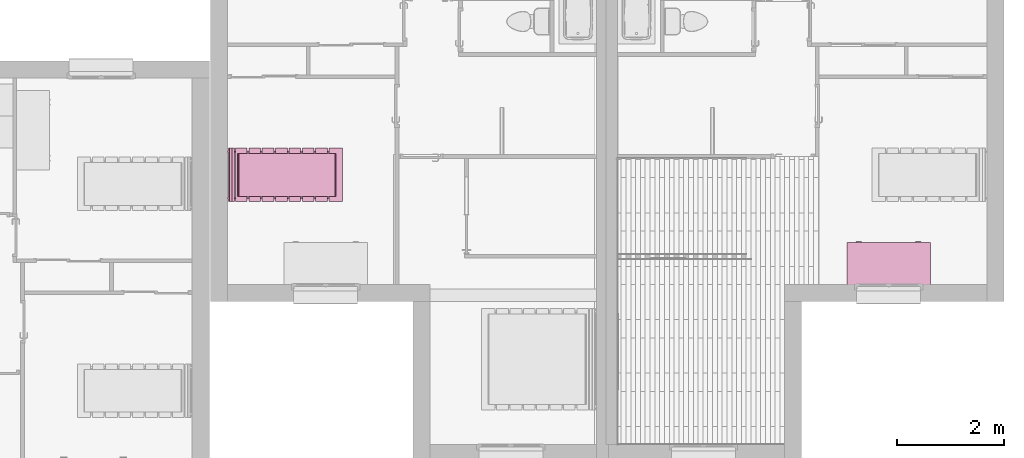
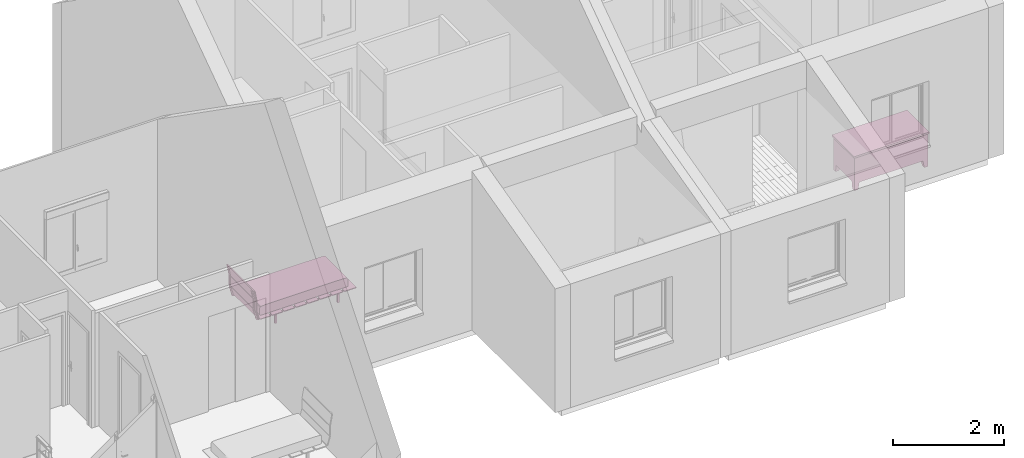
# One storey, part 48 of 50: 2 furnishings.
"""IFC2X3 building model written with IfcOpenShell, lengths in metres."""

import ifcopenshell
import ifcopenshell.guid

model = None  # the IFC model being written
_history = None  # IfcOwnerHistory: only IFC2X3 demands one
_inside = {}  # id of a spatial element -> (the spatial element, [elements in it])
_under = {}  # id of a project, library or spatial element -> (it, [spatial elements below it])
_declared = {}  # id of a project -> (the project, [libraries it declares])
_typed = {}  # id of a type object -> (the type object, [elements of that type])
_made_of = {}  # id of a material, layer set ... -> (it, [elements and type objects made of it])


def new_model(schema):
    """Start an empty IFC model of exactly this schema.

    Asked for "IFC4X3", IfcOpenShell would pick the latest addendum, in which some entities
    have other attributes; the version numbers below select the first issue.
    IFC2X3 requires an IfcOwnerHistory on every rooted entity: one is made here for all.
    """
    global model, _history
    if schema == "IFC4X3":
        model = ifcopenshell.file(schema_version=(4, 3, 0, 0))
    else:
        model = ifcopenshell.file(schema=schema)
    _inside.clear()
    _under.clear()
    _declared.clear()
    _typed.clear()
    _made_of.clear()
    _history = None
    if model.schema == "IFC2X3":
        org = make("IfcOrganization", Name="unknown")
        user = make(
            "IfcPersonAndOrganization",
            ThePerson=make("IfcPerson", FamilyName="unknown"),
            TheOrganization=org,
        )
        app = make(
            "IfcApplication",
            ApplicationDeveloper=org,
            Version="unknown",
            ApplicationFullName="unknown",
            ApplicationIdentifier="unknown",
        )
        _history = make(
            "IfcOwnerHistory",
            OwningUser=user,
            OwningApplication=app,
            ChangeAction="ADDED",
            CreationDate=0,
        )
    return model


def make(cls, **values):
    """One entity of the class cls with the attributes given. An attribute that is None is left unset."""
    return model.create_entity(
        cls, **{name: value for name, value in values.items() if value is not None}
    )


def entity(cls, *values):
    """Any entity or typed value of the class cls, its attributes in the order of the schema. None: left unset."""
    e = model.create_entity(cls)
    for i, value in enumerate(values):
        if value is not None:
            e[i] = value
    return e


def rooted(cls, **values):
    """An entity with a GlobalId (a new one), such as an element, a storey or a relation."""
    return make(cls, GlobalId=ifcopenshell.guid.new(), OwnerHistory=_history, **values)


def si_unit(unit_type, name, prefix=None):
    """IfcSIUnit, for example si_unit("LENGTHUNIT", "METRE", prefix="MILLI")."""
    return make("IfcSIUnit", UnitType=unit_type, Prefix=prefix, Name=name)


def converted_unit(unit_type, name, factor, base, dimensions=None, offset=None):
    """IfcConversionBasedUnit, such as the inch: factor (a typed value) times the base unit."""
    return make(
        "IfcConversionBasedUnit"
        if offset is None
        else "IfcConversionBasedUnitWithOffset",
        ConversionOffset=offset,
        Dimensions=None
        if dimensions is None
        else entity("IfcDimensionalExponents", *dimensions),
        UnitType=unit_type,
        Name=name,
        ConversionFactor=make(
            "IfcMeasureWithUnit", ValueComponent=factor, UnitComponent=base
        ),
    )


def derived_unit(unit_type, elements):
    """IfcDerivedUnit: a product of units, each with its exponent."""
    return make(
        "IfcDerivedUnit",
        Elements=[
            make("IfcDerivedUnitElement", Unit=unit, Exponent=power)
            for unit, power in elements
        ],
        UnitType=unit_type,
    )


def assignment(units):
    """IfcUnitAssignment: the units of a project."""
    return None if units is None else make("IfcUnitAssignment", Units=units)


def point(xyz):
    """IfcCartesianPoint."""
    return None if xyz is None else make("IfcCartesianPoint", Coordinates=xyz)


def direction(xyz):
    """IfcDirection."""
    return None if xyz is None else make("IfcDirection", DirectionRatios=xyz)


def frame(location, z_axis=None, x_axis=None):
    """IfcAxis2Placement3D, a coordinate frame: its origin and axes. An axis left out is left unset."""
    return make(
        "IfcAxis2Placement3D",
        Location=point(location),
        Axis=direction(z_axis),
        RefDirection=direction(x_axis),
    )


def frame_2d(location, x_axis=None):
    """IfcAxis2Placement2D, a coordinate frame in the plane: its origin and x axis."""
    return make(
        "IfcAxis2Placement2D", Location=point(location), RefDirection=direction(x_axis)
    )


def origin():
    """The frame at (0, 0, 0) with its axes left unset."""
    return frame((0.0, 0.0, 0.0))


def origin_2d_with_axis():
    """The frame at (0, 0) in the plane with the x axis (1, 0) written out."""
    return frame_2d((0.0, 0.0), x_axis=(1.0, 0.0))


def place(relative_to, where):
    """IfcLocalPlacement: puts the frame where relative to a parent placement (None: the world)."""
    return make(
        "IfcLocalPlacement", PlacementRelTo=relative_to, RelativePlacement=where
    )


def context(
    kind, dimensions, precision=None, world=None, true_north=None, identifier=None
):
    """IfcGeometricRepresentationContext, for example the 3D "Model" context."""
    return make(
        "IfcGeometricRepresentationContext",
        ContextIdentifier=identifier,
        ContextType=kind,
        CoordinateSpaceDimension=dimensions,
        Precision=precision,
        WorldCoordinateSystem=world,
        TrueNorth=true_north,
    )


def subcontext(parent, identifier, kind, view, scale=None):
    """IfcGeometricRepresentationSubContext, for example "Body" below "Model"."""
    return make(
        "IfcGeometricRepresentationSubContext",
        ContextIdentifier=identifier,
        ContextType=kind,
        ParentContext=parent,
        TargetScale=scale,
        TargetView=view,
    )


def project(units=None, contexts=None):
    """IfcProject with its units and contexts."""
    return rooted(
        "IfcProject",
        Name="project",
        RepresentationContexts=contexts,
        UnitsInContext=assignment(units),
    )


def spatial(cls, under=None, at=None, **own):
    """A site, building, storey or space (cls), placed at a placement, below another one or the project."""
    s = rooted(cls, ObjectPlacement=at, **own)
    if under is not None:
        _under.setdefault(under.id(), (under, []))[1].append(s)
    return s


def polyline(points):
    """IfcPolyline through the points."""
    return make("IfcPolyline", Points=[point(p) for p in points])


def circle_curve(where, radius):
    """IfcCircle in the frame where."""
    return make("IfcCircle", Position=where, Radius=radius)


def parameter(value):
    """IfcParameterValue: where a trimmed curve begins or ends, as a parameter of its basis curve."""
    return model.create_entity("IfcParameterValue", value)


def trimmed(basis, trim1, trim2, sense, master):
    """IfcTrimmedCurve: the piece of a basis curve between two trims."""
    return make(
        "IfcTrimmedCurve",
        BasisCurve=basis,
        Trim1=trim1,
        Trim2=trim2,
        SenseAgreement=sense,
        MasterRepresentation=master,
    )


def segment(curve, same_sense, transition):
    """IfcCompositeCurveSegment."""
    return make(
        "IfcCompositeCurveSegment",
        Transition=transition,
        SameSense=same_sense,
        ParentCurve=curve,
    )


def composite_curve(segments, self_intersect=None):
    """IfcCompositeCurve: segments joined end to end."""
    return make("IfcCompositeCurve", Segments=segments, SelfIntersect=self_intersect)


def profile(cls, at=None, kind="AREA", **sizes):
    """A parametric profile (cls). Its sizes go by their IFC names, for example OverallWidth=200.0."""
    return make(cls, ProfileType=kind, Position=at, **sizes)


def rectangle(**sizes):
    """IfcRectangleProfileDef."""
    return profile("IfcRectangleProfileDef", **sizes)


def outline(outer, holes=None, kind="AREA"):
    """IfcArbitraryClosedProfileDef: a profile drawn as a closed curve; with holes, ...WithVoids."""
    if holes is None:
        return make("IfcArbitraryClosedProfileDef", ProfileType=kind, OuterCurve=outer)
    return make(
        "IfcArbitraryProfileDefWithVoids",
        ProfileType=kind,
        OuterCurve=outer,
        InnerCurves=holes,
    )


def extrude(swept, where, along, depth):
    """IfcExtrudedAreaSolid: the profile swept, set in the frame where, extruded along a direction by depth."""
    return make(
        "IfcExtrudedAreaSolid",
        SweptArea=swept,
        Position=where,
        ExtrudedDirection=direction(along),
        Depth=depth,
    )


def faces_of(points, faces, orient=None, outer=None):
    """IfcFace entities. A face is a list of loops; a loop is a list of indices into points, from 0.

    orient and outer hold one flag for each loop. By default every Orientation is true, the
    first loop of a face is its IfcFaceOuterBound and the others are IfcFaceBound.
    """
    made = []
    for i, loops in enumerate(faces):
        bounds = []
        for j, loop in enumerate(loops):
            is_outer = j == 0 if outer is None else outer[i][j]
            bounds.append(
                make(
                    "IfcFaceOuterBound" if is_outer else "IfcFaceBound",
                    Bound=make("IfcPolyLoop", Polygon=[points[k] for k in loop]),
                    Orientation=True if orient is None else orient[i][j],
                )
            )
        made.append(make("IfcFace", Bounds=bounds))
    return made


def faceted_brep(points, faces, orient=None, outer=None, voids=None):
    """IfcFacetedBrep: a solid bounded by flat faces; with voids (closed shells), ...WithVoids."""
    shared = [point(p) for p in points]
    hull = make("IfcClosedShell", CfsFaces=faces_of(shared, faces, orient, outer))
    if voids is None:
        return make("IfcFacetedBrep", Outer=hull)
    return make(
        "IfcFacetedBrepWithVoids",
        Outer=hull,
        Voids=[
            make(cls, CfsFaces=faces_of(shared, fs, o, b)) for cls, fs, o, b in voids
        ],
    )


def shape(context_of_items, identifier, shape_type, items):
    """IfcShapeRepresentation: the items that make up one representation, for example the "Body"."""
    return make(
        "IfcShapeRepresentation",
        ContextOfItems=context_of_items,
        RepresentationIdentifier=identifier,
        RepresentationType=shape_type,
        Items=items,
    )


def source(mapping_origin, context_of_items, identifier, shape_type, items):
    """IfcRepresentationMap: a shape defined once, which mapped items show again and again."""
    return make(
        "IfcRepresentationMap",
        MappingOrigin=mapping_origin,
        MappedRepresentation=shape(context_of_items, identifier, shape_type, items),
    )


def transform(
    local_origin,
    x_axis=None,
    y_axis=None,
    z_axis=None,
    scale=None,
    scale2=None,
    scale3=None,
    uniform=True,
):
    """IfcCartesianTransformationOperator3D, or its non-uniform kind. x_axis, y_axis, z_axis: its Axis1, 2, 3."""
    if uniform:
        return make(
            "IfcCartesianTransformationOperator3D",
            Axis1=direction(x_axis),
            Axis2=direction(y_axis),
            LocalOrigin=point(local_origin),
            Scale=scale,
            Axis3=direction(z_axis),
        )
    return make(
        "IfcCartesianTransformationOperator3DnonUniform",
        Axis1=direction(x_axis),
        Axis2=direction(y_axis),
        LocalOrigin=point(local_origin),
        Scale=scale,
        Axis3=direction(z_axis),
        Scale2=scale2,
        Scale3=scale3,
    )


def mapped(mapping_source, mapping_target):
    """IfcMappedItem: shows the shape of a source again, moved by a transform."""
    return make(
        "IfcMappedItem", MappingSource=mapping_source, MappingTarget=mapping_target
    )


def material(Name=None, Category=None):
    """IfcMaterial."""
    return make("IfcMaterial", Name=Name, Category=Category)


def material_list(materials):
    """IfcMaterialList."""
    return make("IfcMaterialList", Materials=materials)


def made_of(thing, what):
    """Note that an element or type object is made of a material, layer set ...; save() writes the relation."""
    if what is not None:
        _made_of.setdefault(what.id(), (what, []))[1].append(thing)
    return thing


def type_object(cls, material=None, **own):
    """A type object (cls), such as IfcWallType, which elements share."""
    return made_of(rooted(cls, **own), material)


def type_shapes(of_type, sources):
    """Give a type object the sources (RepresentationMaps) that its elements show as mapped items."""
    of_type.RepresentationMaps = sources


def element(
    cls,
    number,
    at=None,
    inside=None,
    cuts=None,
    type_object=None,
    material=None,
    context=None,
    identifier="Body",
    shape_type=None,
    held_by="IfcProductDefinitionShape",
    body=None,
    shapes=None,
    **own,
):
    """One element of the class cls, such as IfcWall. Its Tag is "e" and its number.

    at: its placement. inside: the storey or other place that contains it. cuts: it is an
    opening in that element (IfcRelVoidsElement). A single representation is given by context,
    identifier, shape_type and body (its items); several are given by shapes. held_by: the class
    of the entity that holds the representations. save() writes the other relations.
    """
    e = rooted(cls, Tag="e%d" % number, ObjectPlacement=at, **own)
    if body is not None:
        shapes = [shape(context, identifier, shape_type, body)]
    if shapes is not None:
        e.Representation = make(held_by, Representations=shapes)
    if inside is not None:
        _inside.setdefault(inside.id(), (inside, []))[1].append(e)
    if cuts is not None:
        rooted(
            "IfcRelVoidsElement", RelatingBuildingElement=cuts, RelatedOpeningElement=e
        )
    if type_object is not None:
        _typed.setdefault(type_object.id(), (type_object, []))[1].append(e)
    return made_of(e, material)


def aggregate(whole, parts):
    """IfcRelAggregates: a whole, such as a stair, and the parts it consists of."""
    return rooted("IfcRelAggregates", RelatingObject=whole, RelatedObjects=parts)


def save(model, path):
    """Write the relations noted so far, then the file.

    IfcRelAggregates (storeys below a building ...), IfcRelContainedInSpatialStructure (elements
    in a storey), IfcRelDefinesByType, IfcRelAssociatesMaterial and IfcRelDeclares: one each for
    every whole, place, type object, material and project.
    """
    for whole, parts in _under.values():
        aggregate(whole, parts)
    for where, things in _inside.values():
        rooted(
            "IfcRelContainedInSpatialStructure",
            RelatedElements=things,
            RelatingStructure=where,
        )
    for kind, things in _typed.values():
        rooted("IfcRelDefinesByType", RelatedObjects=things, RelatingType=kind)
    for what, things in _made_of.values():
        rooted("IfcRelAssociatesMaterial", RelatedObjects=things, RelatingMaterial=what)
    for by, libraries in _declared.values():
        rooted("IfcRelDeclares", RelatingContext=by, RelatedDefinitions=libraries)
    model.write(path)


model = new_model("IFC2X3")

# Units and contexts
model_context = context("Model", 3, precision=1e-05, world=origin(), true_north=direction((6.12303176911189e-17, 1.0)))
context_of_model = context(None, 3, precision=1e-05, world=origin(), true_north=direction((6.12303176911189e-17, 1.0)))
body_context = subcontext(model_context, "Body", "Model", "MODEL_VIEW")
ifc_project = project(units=[si_unit("LENGTHUNIT", "METRE"), si_unit("AREAUNIT", "SQUARE_METRE"), si_unit("VOLUMEUNIT", "CUBIC_METRE"), converted_unit("PLANEANGLEUNIT", "DEGREE", entity("IfcRatioMeasure", 0.0174532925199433), si_unit("PLANEANGLEUNIT", "RADIAN"), dimensions=[0, 0, 0, 0, 0, 0, 0]), si_unit("MASSUNIT", "GRAM", prefix="KILO"), si_unit("TIMEUNIT", "SECOND"), si_unit("FREQUENCYUNIT", "HERTZ"), si_unit("THERMODYNAMICTEMPERATUREUNIT", "DEGREE_CELSIUS"), derived_unit("THERMALTRANSMITTANCEUNIT", [(si_unit("MASSUNIT", "GRAM", prefix="KILO"), 1), (si_unit("THERMODYNAMICTEMPERATUREUNIT", "KELVIN"), -1), (si_unit("TIMEUNIT", "SECOND"), -3)]), derived_unit("VOLUMETRICFLOWRATEUNIT", [(si_unit("LENGTHUNIT", "METRE"), 3), (si_unit("TIMEUNIT", "SECOND"), -1)]), si_unit("ELECTRICCURRENTUNIT", "AMPERE"), si_unit("ELECTRICVOLTAGEUNIT", "VOLT"), si_unit("POWERUNIT", "WATT"), si_unit("FORCEUNIT", "NEWTON", prefix="KILO"), si_unit("ILLUMINANCEUNIT", "LUX"), si_unit("LUMINOUSFLUXUNIT", "LUMEN"), si_unit("LUMINOUSINTENSITYUNIT", "CANDELA"), si_unit("PRESSUREUNIT", "PASCAL")], contexts=[model_context, context_of_model])

# Site, building, storey, space
site_placement = place(None, origin())
site = spatial("IfcSite", under=ifc_project, at=site_placement, Name="Surface", CompositionType="ELEMENT")
building_placement = place(site_placement, origin())
building = spatial("IfcBuilding", under=site, at=building_placement, CompositionType="ELEMENT")
storey_placement = place(building_placement, frame((0.0, 0.0, 2.82)))
storey = spatial("IfcBuildingStorey", under=building, at=storey_placement, Name="ETAGE", CompositionType="ELEMENT", Elevation=2.82)
space_placement = place(storey_placement, origin())
space = spatial("IfcSpace", under=storey, at=space_placement, Name="473", CompositionType="ELEMENT", InteriorOrExteriorSpace="INTERNAL")

# Furnishings
ifc_material_1 = material(Name="Bois - Mélaminé ivoire")
ifc_material_2 = material(Name="Métal - Chrome")
ifc_material_3 = material(Name="Bois - Cerisier")
ifc_material_list_1 = material_list([ifc_material_1, ifc_material_2, ifc_material_3])
ifc_material_list_2 = material_list([ifc_material_1, ifc_material_2, ifc_material_3])
furniture_type_1 = type_object("IfcFurnitureType", Name="1525 mm x 762 mm", AssemblyPlace="NOTDEFINED", material=ifc_material_list_2)
shared_shape_1 = source(origin(), body_context, "Body", "Brep", [
    faceted_brep([(1.13765, 0.761999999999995, 0.70485), (1.13765, 0.761999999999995, 0.60325), (1.50595, 0.761999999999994, 0.60325), (1.50595, 0.761999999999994, 0.70485), (1.13765, 0.774699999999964, 0.70485), (1.13765, 0.774699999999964, 0.60325), (1.50595, 0.774699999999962, 0.60325), (1.50595, 0.774699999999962, 0.70485)], [[[0, 1, 2, 3]], [[1, 0, 4, 5]], [[2, 1, 5, 6]], [[3, 2, 6, 7]], [[0, 3, 7, 4]], [[4, 7, 6, 5]]]),
    faceted_brep([(1.50595, 0.774699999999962, 0.5842), (1.50595, 0.774699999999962, 0.17105), (1.13765, 0.774699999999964, 0.17105), (1.13765, 0.774699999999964, 0.5842), (1.13765, 0.761999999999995, 0.5842), (1.50595, 0.761999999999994, 0.5842), (1.13765, 0.761999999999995, 0.17105), (1.50595, 0.761999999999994, 0.17105)], [[[0, 1, 2, 3]], [[4, 5, 0, 3]], [[6, 4, 3, 2]], [[7, 6, 2, 1]], [[5, 7, 1, 0]], [[5, 4, 6, 7]]]),
    faceted_brep([(0.38735, 0.761999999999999, 0.70485), (0.01905, 0.761999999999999, 0.70485), (0.01905, 0.761999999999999, 0.60285), (0.38735, 0.761999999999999, 0.60285), (0.38735, 0.774700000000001, 0.70485), (0.01905, 0.774700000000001, 0.70485), (0.01905, 0.774700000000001, 0.60285), (0.38735, 0.774700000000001, 0.60285)], [[[0, 1, 2, 3]], [[1, 0, 4, 5]], [[2, 1, 5, 6]], [[3, 2, 6, 7]], [[0, 3, 7, 4]], [[4, 7, 6, 5]]]),
    faceted_brep([(0.01905, 0.774700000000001, 0.5838), (0.38735, 0.774700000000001, 0.5838), (0.38735, 0.774700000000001, 0.4822), (0.01905, 0.774700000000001, 0.4822), (0.01905, 0.761999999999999, 0.4822), (0.01905, 0.761999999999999, 0.5838), (0.38735, 0.761999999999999, 0.4822), (0.38735, 0.761999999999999, 0.5838)], [[[0, 1, 2, 3]], [[4, 5, 0, 3]], [[6, 4, 3, 2]], [[7, 6, 2, 1]], [[5, 7, 1, 0]], [[5, 4, 6, 7]]]),
    faceted_brep([(0.01905, 0.761999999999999, 0.17105), (0.01905, 0.761999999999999, 0.3425), (0.01905, 0.774700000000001, 0.3425), (0.01905, 0.774700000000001, 0.17105), (0.38735, 0.761999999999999, 0.17105), (0.38735, 0.774700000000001, 0.17105), (0.38735, 0.761999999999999, 0.3425), (0.38735, 0.774700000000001, 0.3425)], [[[0, 1, 2, 3]], [[4, 0, 3, 5]], [[6, 4, 5, 7]], [[1, 6, 7, 2]], [[2, 7, 5, 3]], [[1, 0, 4, 6]]]),
    faceted_brep([(0.01905, 0.761999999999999, 0.36155), (0.01905, 0.761999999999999, 0.46315), (0.01905, 0.774700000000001, 0.46315), (0.01905, 0.774700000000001, 0.36155), (0.38735, 0.761999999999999, 0.36155), (0.38735, 0.774700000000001, 0.36155), (0.38735, 0.761999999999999, 0.46315), (0.38735, 0.774700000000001, 0.46315)], [[[0, 1, 2, 3]], [[4, 0, 3, 5]], [[6, 4, 5, 7]], [[1, 6, 7, 2]], [[2, 7, 5, 3]], [[1, 0, 4, 6]]]),
    faceted_brep([(1.42339999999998, 0.761999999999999, 0.152), (1.42339999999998, 0.660399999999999, 0.152), (1.52499999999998, 0.660399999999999, 0.152), (1.52499999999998, 0.761999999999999, 0.152), (1.44879999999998, 0.762, 0.0), (1.52499999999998, 0.762, 0.0), (1.52499999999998, 0.6858, 0.0), (1.44879999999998, 0.6858, 0.0)], [[[0, 1, 2, 3]], [[4, 5, 6, 7]], [[4, 7, 1, 0]], [[7, 6, 2, 1]], [[6, 5, 3, 2]], [[5, 4, 0, 3]]]),
    faceted_brep([(1.4234, 0.0, 0.152), (1.525, 0.0, 0.152), (1.525, 0.1016, 0.152), (1.4234, 0.1016, 0.152), (1.4488, 0.0, 0.0), (1.4488, 0.0761999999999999, 0.0), (1.525, 0.0761999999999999, 0.0), (1.525, 0.0, 0.0)], [[[0, 1, 2, 3]], [[4, 5, 6, 7]], [[4, 7, 1, 0]], [[7, 6, 2, 1]], [[6, 5, 3, 2]], [[5, 4, 0, 3]]]),
    faceted_brep([(0.1016, 0.0, 0.152), (0.1016, 0.1016, 0.152), (0.0, 0.1016, 0.152), (0.0, 0.0, 0.152), (0.0762, 0.0, 0.0), (0.0, 0.0, 0.0), (0.0, 0.0761999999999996, 0.0), (0.0762, 0.0761999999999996, 0.0)], [[[0, 1, 2, 3]], [[4, 5, 6, 7]], [[4, 7, 1, 0]], [[7, 6, 2, 1]], [[6, 5, 3, 2]], [[5, 4, 0, 3]]]),
    faceted_brep([(0.1016, 0.762000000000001, 0.152), (0.0, 0.762000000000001, 0.152), (0.0, 0.660400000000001, 0.152), (0.1016, 0.660400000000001, 0.152), (0.0761999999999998, 0.762000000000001, 0.0), (0.0761999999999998, 0.685800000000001, 0.0), (0.0, 0.685800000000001, 0.0), (0.0, 0.762000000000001, 0.0)], [[[0, 1, 2, 3]], [[4, 5, 6, 7]], [[4, 7, 1, 0]], [[7, 6, 2, 1]], [[6, 5, 3, 2]], [[5, 4, 0, 3]]]),
    faceted_brep([(0.4064, 0.761999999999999, 0.723900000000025), (0.0, 0.761999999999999, 0.723900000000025), (0.0, 0.0, 0.723900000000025), (1.525, 0.0, 0.723900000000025), (1.525, 0.761999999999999, 0.723900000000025), (1.11860000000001, 0.761999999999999, 0.723900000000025), (1.11860000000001, 0.0508000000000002, 0.723900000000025), (0.4064, 0.0508000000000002, 0.723900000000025), (0.4064, 0.761999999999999, 0.152), (0.4064, 0.0508000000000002, 0.152), (1.11860000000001, 0.0508000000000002, 0.152), (1.11860000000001, 0.761999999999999, 0.152), (1.525, 0.761999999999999, 0.152), (1.525, 0.0, 0.152), (0.0, 0.0, 0.152), (0.0, 0.761999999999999, 0.152)], [[[0, 1, 2, 3, 4, 5, 6, 7]], [[8, 9, 10, 11, 12, 13, 14, 15]], [[1, 0, 8, 15]], [[2, 1, 15, 14]], [[3, 2, 14, 13]], [[4, 3, 13, 12]], [[5, 4, 12, 11]], [[6, 5, 11, 10]], [[7, 6, 10, 9]], [[0, 7, 9, 8]]]),
    faceted_brep([(1.54405000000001, 0.781049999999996, 0.761999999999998), (-0.0190499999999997, 0.781049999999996, 0.761999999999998), (-0.0190499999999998, -0.0190500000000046, 0.761999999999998), (1.54405000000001, -0.0190500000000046, 0.761999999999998), (1.54405000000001, 0.781049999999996, 0.723900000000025), (1.54405000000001, -0.0190500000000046, 0.723900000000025), (-0.0190499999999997, -0.0190500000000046, 0.723900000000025), (-0.0190499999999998, 0.781049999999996, 0.723900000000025)], [[[0, 1, 2, 3]], [[4, 5, 6, 7]], [[1, 0, 4, 7]], [[2, 1, 7, 6]], [[3, 2, 6, 5]], [[0, 3, 5, 4]]]),
    faceted_brep([(1.36624999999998, 0.774699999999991, 0.546100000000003), (1.36624999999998, 0.774699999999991, 0.533399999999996), (1.37259999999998, 0.774699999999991, 0.533399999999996), (1.37259999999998, 0.774699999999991, 0.546100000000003), (1.36624999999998, 0.793749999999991, 0.546100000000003), (1.36624999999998, 0.793749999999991, 0.533399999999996), (1.37259999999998, 0.80009999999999, 0.533399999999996), (1.37259999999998, 0.80009999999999, 0.546100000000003), (1.27734999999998, 0.793749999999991, 0.546100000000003), (1.27734999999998, 0.793749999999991, 0.533399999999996), (1.27099999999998, 0.80009999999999, 0.533399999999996), (1.27099999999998, 0.80009999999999, 0.546100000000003), (1.27734999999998, 0.774699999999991, 0.546100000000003), (1.27734999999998, 0.774699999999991, 0.533399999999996), (1.27099999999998, 0.774699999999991, 0.533399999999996), (1.27099999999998, 0.774699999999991, 0.546100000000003)], [[[0, 1, 2, 3]], [[1, 0, 4, 5]], [[2, 1, 5, 6]], [[3, 2, 6, 7]], [[0, 3, 7, 4]], [[5, 4, 8, 9]], [[6, 5, 9, 10]], [[7, 6, 10, 11]], [[4, 7, 11, 8]], [[9, 8, 12, 13]], [[10, 9, 13, 14]], [[11, 10, 14, 15]], [[8, 11, 15, 12]], [[12, 15, 14, 13]]]),
    faceted_brep([(1.36624999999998, 0.774699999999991, 0.654050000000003), (1.36624999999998, 0.774699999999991, 0.666750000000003), (1.36624999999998, 0.79374999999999, 0.666750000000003), (1.36624999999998, 0.79374999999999, 0.654050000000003), (1.37259999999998, 0.774699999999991, 0.654050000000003), (1.37259999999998, 0.800099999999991, 0.654050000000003), (1.37259999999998, 0.774699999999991, 0.666750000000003), (1.37259999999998, 0.800099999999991, 0.666750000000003), (1.27734999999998, 0.79374999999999, 0.666750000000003), (1.27734999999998, 0.79374999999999, 0.654050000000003), (1.27099999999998, 0.800099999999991, 0.654050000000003), (1.27099999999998, 0.800099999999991, 0.666750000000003), (1.27734999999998, 0.774699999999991, 0.666750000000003), (1.27099999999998, 0.774699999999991, 0.666750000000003), (1.27099999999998, 0.774699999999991, 0.654050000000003), (1.27734999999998, 0.774699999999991, 0.654050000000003)], [[[0, 1, 2, 3]], [[4, 0, 3, 5]], [[6, 4, 5, 7]], [[1, 6, 7, 2]], [[3, 2, 8, 9]], [[5, 3, 9, 10]], [[7, 5, 10, 11]], [[2, 7, 11, 8]], [[12, 13, 14, 15]], [[9, 8, 12, 15]], [[10, 9, 15, 14]], [[11, 10, 14, 13]], [[8, 11, 13, 12]], [[1, 0, 4, 6]]]),
    faceted_brep([(0.15875, 0.774699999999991, 0.3048), (0.1524, 0.774699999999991, 0.3048), (0.1524, 0.774699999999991, 0.2921), (0.15875, 0.774699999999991, 0.2921), (0.15875, 0.793749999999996, 0.3048), (0.1524, 0.800099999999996, 0.3048), (0.1524, 0.800099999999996, 0.2921), (0.15875, 0.793749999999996, 0.2921), (0.24765, 0.793749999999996, 0.3048), (0.254, 0.800099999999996, 0.3048), (0.254, 0.800099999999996, 0.2921), (0.24765, 0.793749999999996, 0.2921), (0.24765, 0.774699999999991, 0.3048), (0.254, 0.774699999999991, 0.3048), (0.254, 0.774699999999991, 0.2921), (0.24765, 0.774699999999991, 0.2921)], [[[0, 1, 2, 3]], [[1, 0, 4, 5]], [[2, 1, 5, 6]], [[3, 2, 6, 7]], [[0, 3, 7, 4]], [[5, 4, 8, 9]], [[6, 5, 9, 10]], [[7, 6, 10, 11]], [[4, 7, 11, 8]], [[9, 8, 12, 13]], [[10, 9, 13, 14]], [[11, 10, 14, 15]], [[8, 11, 15, 12]], [[12, 15, 14, 13]]]),
    faceted_brep([(0.1524, 0.774699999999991, 0.425450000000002), (0.15875, 0.774699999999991, 0.425450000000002), (0.15875, 0.793749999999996, 0.425450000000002), (0.1524, 0.800099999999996, 0.425450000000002), (0.1524, 0.774699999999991, 0.412750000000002), (0.1524, 0.800099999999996, 0.412750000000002), (0.15875, 0.774699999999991, 0.412750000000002), (0.15875, 0.793749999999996, 0.412750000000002), (0.24765, 0.793749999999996, 0.425450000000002), (0.254, 0.800099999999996, 0.425450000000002), (0.254, 0.800099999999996, 0.412750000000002), (0.24765, 0.793749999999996, 0.412750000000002), (0.24765, 0.774699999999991, 0.425450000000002), (0.254, 0.774699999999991, 0.425450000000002), (0.254, 0.774699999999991, 0.412750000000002), (0.24765, 0.774699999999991, 0.412750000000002)], [[[0, 1, 2, 3]], [[4, 0, 3, 5]], [[6, 4, 5, 7]], [[1, 6, 7, 2]], [[3, 2, 8, 9]], [[5, 3, 9, 10]], [[7, 5, 10, 11]], [[2, 7, 11, 8]], [[9, 8, 12, 13]], [[10, 9, 13, 14]], [[11, 10, 14, 15]], [[8, 11, 15, 12]], [[12, 15, 14, 13]], [[1, 0, 4, 6]]]),
    faceted_brep([(0.1524, 0.774699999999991, 0.5461), (0.15875, 0.774699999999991, 0.5461), (0.15875, 0.793749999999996, 0.5461), (0.1524, 0.800099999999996, 0.5461), (0.1524, 0.774699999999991, 0.5334), (0.1524, 0.800099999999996, 0.5334), (0.15875, 0.774699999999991, 0.5334), (0.15875, 0.793749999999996, 0.5334), (0.24765, 0.793749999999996, 0.5461), (0.254, 0.800099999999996, 0.5461), (0.254, 0.800099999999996, 0.5334), (0.24765, 0.793749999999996, 0.5334), (0.24765, 0.774699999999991, 0.5461), (0.254, 0.774699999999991, 0.5461), (0.254, 0.774699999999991, 0.5334), (0.24765, 0.774699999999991, 0.5334)], [[[0, 1, 2, 3]], [[4, 0, 3, 5]], [[6, 4, 5, 7]], [[1, 6, 7, 2]], [[3, 2, 8, 9]], [[5, 3, 9, 10]], [[7, 5, 10, 11]], [[2, 7, 11, 8]], [[9, 8, 12, 13]], [[10, 9, 13, 14]], [[11, 10, 14, 15]], [[8, 11, 15, 12]], [[12, 15, 14, 13]], [[1, 0, 4, 6]]]),
    faceted_brep([(0.1524, 0.774699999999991, 0.666750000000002), (0.15875, 0.774699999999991, 0.666750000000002), (0.15875, 0.793749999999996, 0.666750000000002), (0.1524, 0.800099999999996, 0.666750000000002), (0.1524, 0.774699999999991, 0.654050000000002), (0.1524, 0.800099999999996, 0.654050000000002), (0.15875, 0.774699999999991, 0.654050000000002), (0.15875, 0.793749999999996, 0.654050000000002), (0.24765, 0.793749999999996, 0.666750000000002), (0.254, 0.800099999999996, 0.666750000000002), (0.254, 0.800099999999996, 0.654050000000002), (0.24765, 0.793749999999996, 0.654050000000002), (0.24765, 0.774699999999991, 0.666750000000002), (0.24765, 0.774699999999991, 0.654050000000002), (0.254, 0.774699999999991, 0.654050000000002), (0.254, 0.774699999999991, 0.666750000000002)], [[[0, 1, 2, 3]], [[4, 0, 3, 5]], [[6, 4, 5, 7]], [[1, 6, 7, 2]], [[3, 2, 8, 9]], [[5, 3, 9, 10]], [[7, 5, 10, 11]], [[2, 7, 11, 8]], [[12, 13, 14, 15]], [[9, 8, 12, 15]], [[10, 9, 15, 14]], [[11, 10, 14, 13]], [[8, 11, 13, 12]], [[1, 0, 4, 6]]]),
])
type_shapes(furniture_type_1, [shared_shape_1])
furnishing_1_placement = place(space_placement, frame((88.2317857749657, 84.2475239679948, 0.0199999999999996)))
element("IfcFurnishingElement", 1, at=furnishing_1_placement, inside=space, type_object=furniture_type_1, material=ifc_material_list_1, Name="Bureau commun:1525 mm x 762 mm", ObjectType="1525 mm x 762 mm", context=body_context, shape_type="MappedRepresentation", body=[
    mapped(shared_shape_1, transform((0.0, 0.0, 0.0), scale=1.0)),
])
ifc_material_4 = material(Name="Textile - Bleu pâle")
ifc_material_5 = material(Name="Bois - Teck")
ifc_material_6 = material(Name="Plastique - Noir")
ifc_material_list_3 = material_list([ifc_material_4, ifc_material_5, ifc_material_6])
ifc_material_list_4 = material_list([ifc_material_4, ifc_material_5, ifc_material_6])
furniture_type_2 = type_object("IfcFurnitureType", Name="1000 mm x 2000 mm 3", AssemblyPlace="NOTDEFINED", material=ifc_material_list_4)
shared_shape_2 = source(origin(), body_context, "Body", "SweptSolid", [
    extrude(outline(composite_curve([segment(polyline([(0.753947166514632, -0.0964613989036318), (0.883258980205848, -0.0964613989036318)]), True, "CONTINUOUS"), segment(trimmed(circle_curve(frame_2d((0.82804087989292, 1.1581587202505), x_axis=(0.999878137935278, -0.0156111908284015)), 1.25583465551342), [parameter(273.414556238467)], [parameter(275.726345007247)], True, "PARAMETER"), True, "CONTINUOUS"), segment(trimmed(circle_curve(frame_2d((0.929150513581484, -0.0379486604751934), x_axis=(0.999878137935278, -0.0156111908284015)), 0.0554613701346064), [parameter(275.726345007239)], [parameter(297.64810869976)], True, "PARAMETER"), True, "CONTINUOUS"), segment(trimmed(circle_curve(frame_2d((0.943544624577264, -0.0665015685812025), x_axis=(0.999878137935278, -0.0156111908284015)), 0.0234854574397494), [parameter(297.648108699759)], [parameter(348.570161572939)], True, "PARAMETER"), True, "CONTINUOUS"), segment(trimmed(circle_curve(frame_2d((0.767446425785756, -0.0280276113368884), x_axis=(0.999878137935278, -0.0156111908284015)), 0.203737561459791), [parameter(348.570161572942)], [parameter(3.56222124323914e-13)], True, "PARAMETER"), True, "CONTINUOUS"), segment(polyline([(0.971159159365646, -0.0312081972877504), (0.97301851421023, 0.0878812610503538)]), True, "CONTINUOUS"), segment(polyline([(0.97301851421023, 0.0878812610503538), (0.971187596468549, 0.10002359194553)]), True, "CONTINUOUS"), segment(polyline([(0.971187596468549, 0.10002359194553), (0.955059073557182, 0.102294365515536)]), True, "CONTINUOUS"), segment(polyline([(0.955059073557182, 0.102294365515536), (-0.834665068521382, 0.130237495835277)]), True, "CONTINUOUS"), segment(polyline([(-0.834665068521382, 0.130237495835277), (-0.854928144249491, 0.12651595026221)]), True, "CONTINUOUS"), segment(polyline([(-0.854928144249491, 0.12651595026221), (-0.861114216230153, 0.118536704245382)]), True, "CONTINUOUS"), segment(polyline([(-0.861114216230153, 0.118536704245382), (-0.865626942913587, 0.0883228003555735)]), True, "CONTINUOUS"), segment(polyline([(-0.865626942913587, 0.0883228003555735), (-0.866982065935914, 0.00152878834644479)]), True, "CONTINUOUS"), segment(polyline([(-0.866982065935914, 0.00152878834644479), (-0.863446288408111, -0.0308297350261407)]), True, "CONTINUOUS"), segment(polyline([(-0.863446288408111, -0.0308297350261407), (-0.857669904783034, -0.0490905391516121)]), True, "CONTINUOUS"), segment(polyline([(-0.857669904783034, -0.0490905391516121), (-0.843687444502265, -0.0594036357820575)]), True, "CONTINUOUS"), segment(polyline([(-0.843687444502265, -0.0594036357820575), (-0.817521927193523, -0.0658690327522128)]), True, "CONTINUOUS"), segment(polyline([(-0.817521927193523, -0.0658690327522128), (-0.696416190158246, -0.0738167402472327)]), True, "CONTINUOUS"), segment(polyline([(-0.696416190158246, -0.0738167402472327), (0.753947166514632, -0.0964613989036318)]), True, "CONTINUOUS")], self_intersect=False)), frame((-0.4, -1.05656455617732, 0.367191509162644), z_axis=(1.0, 0.0, 0.0), x_axis=(0.0, -0.999878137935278, -0.0156111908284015)), (0.0, 0.0, 1.0), 0.799999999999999),
    extrude(rectangle(XDim=0.249999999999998, YDim=1.0, at=origin_2d_with_axis()), frame((0.0, -2.02499620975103, 0.232311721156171), z_axis=(0.0, 0.0, 1.0), x_axis=(0.0, 1.0, 0.0)), (0.0, 0.0, 1.0), 0.0176882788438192),
    extrude(outline(polyline([(-0.00463256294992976, -0.115042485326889), (0.0130278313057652, -0.115042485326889), (0.00471132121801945, 0.115371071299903), (-0.0131065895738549, 0.114713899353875), (-0.00463256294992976, -0.115042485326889)])), frame((-0.5, -0.051324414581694, 0.783374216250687), z_axis=(1.0, 0.0, 0.0), x_axis=(0.0, 0.975885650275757, -0.218282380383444)), (0.0, 0.0, 1.0), 0.999999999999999),
    extrude(rectangle(XDim=0.219999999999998, YDim=1.0, at=frame_2d((-1.38777878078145e-16, 0.0), x_axis=(1.0, 0.0))), frame((0.0, -1.75999620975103, 0.232311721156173), z_axis=(0.0, 0.0, 1.0), x_axis=(0.0, 1.0, 0.0)), (0.0, 0.0, 1.0), 0.0176882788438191),
    extrude(rectangle(XDim=0.219999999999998, YDim=1.0, at=frame_2d((-1.31838984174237e-16, 0.0), x_axis=(1.0, 0.0))), frame((0.0, -1.50999620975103, 0.232311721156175), z_axis=(0.0, 0.0, 1.0), x_axis=(0.0, 1.0, 0.0)), (0.0, 0.0, 1.0), 0.017688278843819),
    extrude(rectangle(XDim=0.219999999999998, YDim=1.0, at=frame_2d((-1.38777878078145e-16, 0.0), x_axis=(1.0, 0.0))), frame((0.0, -1.25999620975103, 0.232311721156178), z_axis=(0.0, 0.0, 1.0), x_axis=(0.0, 1.0, 0.0)), (0.0, 0.0, 1.0), 0.0176882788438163),
    extrude(rectangle(XDim=0.219999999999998, YDim=1.0, at=frame_2d((6.93889390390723e-17, 0.0), x_axis=(1.0, 0.0))), frame((0.0, -1.00999620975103, 0.232311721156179), z_axis=(0.0, 0.0, 1.0), x_axis=(0.0, 1.0, 0.0)), (0.0, 0.0, 1.0), 0.0176882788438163),
    extrude(rectangle(XDim=0.22, YDim=1.0, at=origin_2d_with_axis()), frame((0.0, -0.759996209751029, 0.232311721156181), z_axis=(0.0, 0.0, 1.0), x_axis=(0.0, 1.0, 0.0)), (0.0, 0.0, 1.0), 0.0176882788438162),
    extrude(rectangle(XDim=0.22, YDim=1.0, at=origin_2d_with_axis()), frame((0.0, -0.509996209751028, 0.232311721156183), z_axis=(0.0, 0.0, 1.0), x_axis=(0.0, 1.0, 0.0)), (0.0, 0.0, 1.0), 0.0176882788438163),
    extrude(rectangle(XDim=0.22, YDim=1.0, at=origin_2d_with_axis()), frame((0.0, -0.259996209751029, 0.232311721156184), z_axis=(0.0, 0.0, 1.0), x_axis=(0.0, 1.0, 0.0)), (0.0, 0.0, 1.0), 0.0176882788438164),
    extrude(rectangle(XDim=0.0183684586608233, YDim=1.0, at=origin_2d_with_axis()), frame((0.0, -0.0735868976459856, 0.443802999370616), z_axis=(0.0, 0.0, 1.0), x_axis=(0.0, 1.0, 0.0)), (0.0, 0.0, 1.0), 0.214481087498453),
    extrude(outline(polyline([(-0.0111603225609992, -0.093944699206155), (0.00684599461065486, -0.093944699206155), (0.0109625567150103, 0.0940897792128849), (-0.00664822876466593, 0.093799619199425), (-0.0111603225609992, -0.093944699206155)])), frame((-0.5, -0.100341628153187, 0.340588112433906), z_axis=(1.0, 0.0, 0.0), x_axis=(0.0, 0.969329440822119, -0.245764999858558)), (0.0, 0.0, 1.0), 1.0),
    extrude(rectangle(XDim=0.0421792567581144, YDim=0.03, at=frame_2d((0.0, -3.38271077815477e-17), x_axis=(1.0, 0.0))), frame((-0.434999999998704, -1.80439834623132, 0.0), z_axis=(0.0, 0.0, 1.0), x_axis=(0.0, -1.0, 0.0)), (0.0, 0.0, 1.0), 0.204645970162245),
    extrude(rectangle(XDim=0.0421792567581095, YDim=0.03, at=frame_2d((3.29597460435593e-17, -3.38271077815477e-17), x_axis=(1.0, 0.0))), frame((-0.434999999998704, -0.505017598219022, 0.0), z_axis=(0.0, 0.0, 1.0), x_axis=(0.0, -1.0, 0.0)), (0.0, 0.0, 1.0), 0.204645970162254),
    extrude(rectangle(XDim=0.0421792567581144, YDim=0.03, at=frame_2d((2.70616862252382e-16, -3.38271077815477e-17), x_axis=(1.0, 0.0))), frame((0.435000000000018, -1.80439834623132, 0.0), z_axis=(0.0, 0.0, 1.0), x_axis=(0.0, 1.0, 0.0)), (0.0, 0.0, 1.0), 0.204645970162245),
    extrude(rectangle(XDim=0.0421792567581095, YDim=0.03, at=frame_2d((-3.29597460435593e-17, -3.38271077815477e-17), x_axis=(1.0, 0.0))), frame((0.435000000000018, -0.505017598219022, 0.0), z_axis=(0.0, 0.0, 1.0), x_axis=(0.0, 1.0, 0.0)), (0.0, 0.0, 1.0), 0.204645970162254),
    extrude(outline(composite_curve([segment(polyline([(-0.333462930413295, -0.507724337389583), (-0.311650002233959, -0.507724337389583)]), True, "CONTINUOUS"), segment(polyline([(-0.311650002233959, -0.507724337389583), (-0.317185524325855, -0.272424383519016)]), True, "CONTINUOUS"), segment(polyline([(-0.317185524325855, -0.272424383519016), (-0.363847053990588, -0.050782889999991)]), True, "CONTINUOUS"), segment(polyline([(-0.363847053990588, -0.050782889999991), (-0.350538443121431, 0.161194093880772)]), True, "CONTINUOUS"), segment(polyline([(-0.350538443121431, 0.161194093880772), (1.5836166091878, 0.569312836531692)]), True, "CONTINUOUS"), segment(polyline([(1.5836166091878, 0.569312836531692), (1.55147511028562, 0.589891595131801)]), True, "CONTINUOUS"), segment(polyline([(1.55147511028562, 0.589891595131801), (-0.355855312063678, 0.188346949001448)]), True, "CONTINUOUS"), segment(trimmed(circle_curve(frame_2d((-0.350332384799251, 0.162113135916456), x_axis=(0.978549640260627, 0.206011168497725)), 0.0268088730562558), [parameter(90.0)], [parameter(167.367566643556)], True, "PARAMETER"), True, "CONTINUOUS"), segment(polyline([(-0.377138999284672, 0.162461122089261), (-0.386037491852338, -0.0554545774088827)]), True, "CONTINUOUS"), segment(polyline([(-0.386037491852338, -0.0554545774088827), (-0.339375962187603, -0.277096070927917)]), True, "CONTINUOUS"), segment(polyline([(-0.339375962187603, -0.277096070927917), (-0.333462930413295, -0.507724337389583)]), True, "CONTINUOUS")], self_intersect=False)), frame((-0.449999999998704, -0.430906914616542, 0.462262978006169), z_axis=(1.0, 0.0, 0.0), x_axis=(0.0, -0.978549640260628, 0.206011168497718)), (0.0, 0.0, 1.0), 0.0299999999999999),
    extrude(outline(composite_curve([segment(polyline([(-0.333462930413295, -0.507724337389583), (-0.311650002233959, -0.507724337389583)]), True, "CONTINUOUS"), segment(polyline([(-0.311650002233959, -0.507724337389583), (-0.317185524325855, -0.272424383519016)]), True, "CONTINUOUS"), segment(polyline([(-0.317185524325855, -0.272424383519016), (-0.363847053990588, -0.0507828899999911)]), True, "CONTINUOUS"), segment(polyline([(-0.363847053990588, -0.0507828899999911), (-0.350538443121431, 0.161194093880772)]), True, "CONTINUOUS"), segment(polyline([(-0.350538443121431, 0.161194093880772), (1.5836166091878, 0.569312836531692)]), True, "CONTINUOUS"), segment(polyline([(1.5836166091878, 0.569312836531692), (1.55147511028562, 0.5898915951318)]), True, "CONTINUOUS"), segment(polyline([(1.55147511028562, 0.5898915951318), (-0.355855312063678, 0.188346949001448)]), True, "CONTINUOUS"), segment(trimmed(circle_curve(frame_2d((-0.350332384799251, 0.162113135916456), x_axis=(0.978549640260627, 0.206011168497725)), 0.0268088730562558), [parameter(90.0)], [parameter(167.367566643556)], True, "PARAMETER"), True, "CONTINUOUS"), segment(polyline([(-0.377138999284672, 0.162461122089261), (-0.386037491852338, -0.0554545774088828)]), True, "CONTINUOUS"), segment(polyline([(-0.386037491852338, -0.0554545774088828), (-0.339375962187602, -0.277096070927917)]), True, "CONTINUOUS"), segment(polyline([(-0.339375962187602, -0.277096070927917), (-0.333462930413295, -0.507724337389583)]), True, "CONTINUOUS")], self_intersect=False)), frame((0.420000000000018, -0.430906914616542, 0.462262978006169), z_axis=(1.0, 0.0, 0.0), x_axis=(0.0, -0.978549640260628, 0.206011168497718)), (0.0, 0.0, 1.0), 0.0299999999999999),
])
type_shapes(furniture_type_2, [shared_shape_2])
furnishing_2_placement = place(storey_placement, frame((76.622756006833, 86.2975239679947, 0.0199999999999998), z_axis=(0.0, 0.0, 1.0), x_axis=(0.0, 1.0, 0.0)))
element("IfcFurnishingElement", 2, at=furnishing_2_placement, inside=storey, type_object=furniture_type_2, material=ifc_material_list_3, Name="Lit à lattes:1000 mm x 2000 mm 3", ObjectType="1000 mm x 2000 mm 3", context=body_context, shape_type="MappedRepresentation", body=[
    mapped(shared_shape_2, transform((0.0, 0.0, 0.0), scale=1.0)),
])

save(model, "model.ifc")
